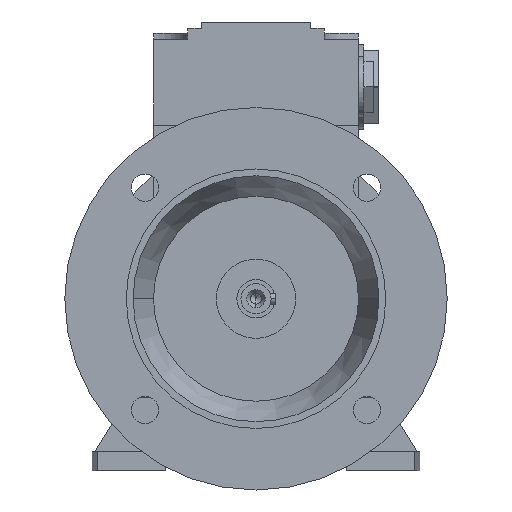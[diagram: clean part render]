
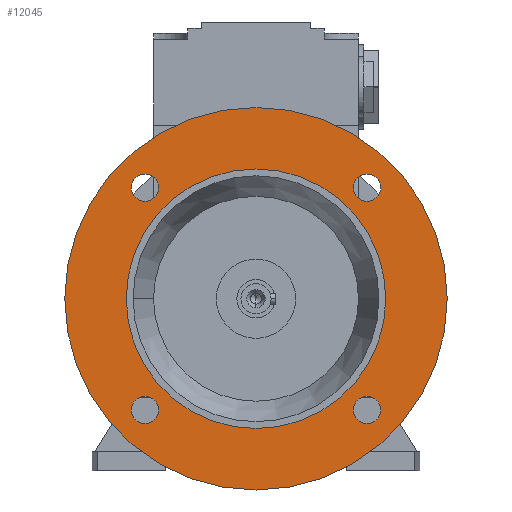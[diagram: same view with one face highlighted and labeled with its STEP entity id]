
A CAD part, left-side view. The second image highlights one B-rep face of the part: STEP entity #12045.
In plain terms, the highlighted planar face has unit normal (-1, 0, 0).
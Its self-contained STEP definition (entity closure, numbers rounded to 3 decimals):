
#3 = AXIS2_PLACEMENT_3D ( 'NONE', #9099, #4665, #8917 ) ;
#90 = AXIS2_PLACEMENT_3D ( 'NONE', #6637, #3662, #18234 ) ;
#241 = EDGE_CURVE ( 'NONE', #12335, #13244, #16145, .T. ) ;
#263 = AXIS2_PLACEMENT_3D ( 'NONE', #18277, #5194, #9460 ) ;
#395 = AXIS2_PLACEMENT_3D ( 'NONE', #10301, #7431, #6039 ) ;
#990 = EDGE_CURVE ( 'NONE', #7320, #1233, #5333, .T. ) ;
#1117 = DIRECTION ( 'NONE',  ( 1., 0., 0. ) ) ;
#1233 = VERTEX_POINT ( 'NONE', #13842 ) ;
#1261 = DIRECTION ( 'NONE',  ( 0., 0.707, 0.707 ) ) ;
#1568 = CIRCLE ( 'NONE', #90, 47.5 ) ;
#2023 = DIRECTION ( 'NONE',  ( 0., 1., 0. ) ) ;
#2176 = CIRCLE ( 'NONE', #15226, 5. ) ;
#2205 = CIRCLE ( 'NONE', #3388, 5. ) ;
#2375 = EDGE_CURVE ( 'NONE', #1233, #7320, #5623, .T. ) ;
#2450 = DIRECTION ( 'NONE',  ( 1., 0., 0. ) ) ;
#2483 = EDGE_CURVE ( 'NONE', #10193, #7054, #5585, .T. ) ;
#2580 = CARTESIAN_POINT ( 'NONE',  ( -29.5, 40.659, 40.659 ) ) ;
#2839 = DIRECTION ( 'NONE',  ( 0., 0.707, -0.707 ) ) ;
#3086 = CIRCLE ( 'NONE', #6641, 5. ) ;
#3388 = AXIS2_PLACEMENT_3D ( 'NONE', #3904, #1117, #15331 ) ;
#3524 = EDGE_LOOP ( 'NONE', ( #4411, #6313 ) ) ;
#3662 = DIRECTION ( 'NONE',  ( 1., 0., 0. ) ) ;
#3728 = FACE_OUTER_BOUND ( 'NONE', #11470, .T. ) ;
#3820 = DIRECTION ( 'NONE',  ( -1., 0., 0. ) ) ;
#3875 = CARTESIAN_POINT ( 'NONE',  ( -29.5, -70., 0. ) ) ;
#3904 = CARTESIAN_POINT ( 'NONE',  ( -29.5, 40.659, -40.659 ) ) ;
#3990 = AXIS2_PLACEMENT_3D ( 'NONE', #12759, #11029, #2839 ) ;
#4411 = ORIENTED_EDGE ( 'NONE', *, *, #12564, .T. ) ;
#4441 = ORIENTED_EDGE ( 'NONE', *, *, #5776, .F. ) ;
#4460 = ORIENTED_EDGE ( 'NONE', *, *, #6148, .T. ) ;
#4665 = DIRECTION ( 'NONE',  ( 1., 0., 0. ) ) ;
#4771 = DIRECTION ( 'NONE',  ( 1., 0., 0. ) ) ;
#5057 = EDGE_CURVE ( 'NONE', #8076, #5631, #3086, .T. ) ;
#5097 = CARTESIAN_POINT ( 'NONE',  ( -29.5, 0., 0. ) ) ;
#5194 = DIRECTION ( 'NONE',  ( 1., 0., 0. ) ) ;
#5256 = CARTESIAN_POINT ( 'NONE',  ( -29.5, 70., 0. ) ) ;
#5286 = DIRECTION ( 'NONE',  ( 1., 0., 0. ) ) ;
#5333 = CIRCLE ( 'NONE', #3, 5. ) ;
#5585 = CIRCLE ( 'NONE', #15113, 70. ) ;
#5623 = CIRCLE ( 'NONE', #7993, 5. ) ;
#5631 = VERTEX_POINT ( 'NONE', #11249 ) ;
#5776 = EDGE_CURVE ( 'NONE', #7054, #10193, #17274, .T. ) ;
#5821 = ORIENTED_EDGE ( 'NONE', *, *, #14897, .T. ) ;
#5940 = CARTESIAN_POINT ( 'NONE',  ( -29.5, 0., 0. ) ) ;
#6039 = DIRECTION ( 'NONE',  ( 0., 1., 0. ) ) ;
#6148 = EDGE_CURVE ( 'NONE', #8932, #12710, #1568, .T. ) ;
#6257 = DIRECTION ( 'NONE',  ( 0., -0.707, 0.707 ) ) ;
#6313 = ORIENTED_EDGE ( 'NONE', *, *, #5057, .T. ) ;
#6418 = FACE_BOUND ( 'NONE', #14311, .T. ) ;
#6511 = PLANE ( 'NONE',  #7750 ) ;
#6522 = ORIENTED_EDGE ( 'NONE', *, *, #6759, .T. ) ;
#6637 = CARTESIAN_POINT ( 'NONE',  ( -29.5, 0., 0. ) ) ;
#6641 = AXIS2_PLACEMENT_3D ( 'NONE', #14795, #11743, #6257 ) ;
#6759 = EDGE_CURVE ( 'NONE', #12710, #8932, #14037, .T. ) ;
#6822 = VERTEX_POINT ( 'NONE', #15038 ) ;
#7054 = VERTEX_POINT ( 'NONE', #3875 ) ;
#7320 = VERTEX_POINT ( 'NONE', #9592 ) ;
#7431 = DIRECTION ( 'NONE',  ( 1., 0., 0. ) ) ;
#7433 = ORIENTED_EDGE ( 'NONE', *, *, #2375, .T. ) ;
#7750 = AXIS2_PLACEMENT_3D ( 'NONE', #16339, #3820, #10510 ) ;
#7768 = ORIENTED_EDGE ( 'NONE', *, *, #15234, .T. ) ;
#7993 = AXIS2_PLACEMENT_3D ( 'NONE', #12374, #2450, #10024 ) ;
#8000 = FACE_BOUND ( 'NONE', #18090, .T. ) ;
#8076 = VERTEX_POINT ( 'NONE', #9774 ) ;
#8286 = CIRCLE ( 'NONE', #263, 5. ) ;
#8917 = DIRECTION ( 'NONE',  ( 0., -0.707, -0.707 ) ) ;
#8932 = VERTEX_POINT ( 'NONE', #18269 ) ;
#9099 = CARTESIAN_POINT ( 'NONE',  ( -29.5, -40.659, -40.659 ) ) ;
#9385 = FACE_BOUND ( 'NONE', #3524, .T. ) ;
#9460 = DIRECTION ( 'NONE',  ( 0., -0.707, 0.707 ) ) ;
#9531 = EDGE_LOOP ( 'NONE', ( #5821, #7768 ) ) ;
#9592 = CARTESIAN_POINT ( 'NONE',  ( -29.5, -37.123, -37.123 ) ) ;
#9774 = CARTESIAN_POINT ( 'NONE',  ( -29.5, -37.123, 37.123 ) ) ;
#10024 = DIRECTION ( 'NONE',  ( 0., -0.707, -0.707 ) ) ;
#10182 = CARTESIAN_POINT ( 'NONE',  ( -29.5, 47.5, 0. ) ) ;
#10193 = VERTEX_POINT ( 'NONE', #5256 ) ;
#10293 = DIRECTION ( 'NONE',  ( 1., 0., 0. ) ) ;
#10301 = CARTESIAN_POINT ( 'NONE',  ( -29.5, 0., 0. ) ) ;
#10423 = ORIENTED_EDGE ( 'NONE', *, *, #2483, .F. ) ;
#10510 = DIRECTION ( 'NONE',  ( 0., 0., 1. ) ) ;
#10736 = EDGE_LOOP ( 'NONE', ( #7433, #16477 ) ) ;
#11029 = DIRECTION ( 'NONE',  ( 1., 0., 0. ) ) ;
#11249 = CARTESIAN_POINT ( 'NONE',  ( -29.5, -44.194, 44.194 ) ) ;
#11470 = EDGE_LOOP ( 'NONE', ( #10423, #4441 ) ) ;
#11694 = CARTESIAN_POINT ( 'NONE',  ( -29.5, 44.194, 44.194 ) ) ;
#11743 = DIRECTION ( 'NONE',  ( 1., 0., 0. ) ) ;
#11972 = DIRECTION ( 'NONE',  ( 0., 1., 0. ) ) ;
#12045 = ADVANCED_FACE ( 'NONE', ( #8000, #9385, #6418, #15150, #13371, #3728 ), #6511, .T. ) ;
#12287 = ORIENTED_EDGE ( 'NONE', *, *, #241, .T. ) ;
#12335 = VERTEX_POINT ( 'NONE', #11694 ) ;
#12374 = CARTESIAN_POINT ( 'NONE',  ( -29.5, -40.659, -40.659 ) ) ;
#12564 = EDGE_CURVE ( 'NONE', #5631, #8076, #8286, .T. ) ;
#12710 = VERTEX_POINT ( 'NONE', #10182 ) ;
#12759 = CARTESIAN_POINT ( 'NONE',  ( -29.5, 40.659, -40.659 ) ) ;
#12972 = ORIENTED_EDGE ( 'NONE', *, *, #14114, .T. ) ;
#13244 = VERTEX_POINT ( 'NONE', #16167 ) ;
#13371 = FACE_BOUND ( 'NONE', #10736, .T. ) ;
#13785 = AXIS2_PLACEMENT_3D ( 'NONE', #17392, #4771, #17813 ) ;
#13842 = CARTESIAN_POINT ( 'NONE',  ( -29.5, -44.194, -44.194 ) ) ;
#13975 = DIRECTION ( 'NONE',  ( 1., 0., 0. ) ) ;
#14037 = CIRCLE ( 'NONE', #395, 47.5 ) ;
#14114 = EDGE_CURVE ( 'NONE', #13244, #12335, #2176, .T. ) ;
#14258 = CARTESIAN_POINT ( 'NONE',  ( -29.5, 37.123, -37.123 ) ) ;
#14311 = EDGE_LOOP ( 'NONE', ( #12287, #12972 ) ) ;
#14795 = CARTESIAN_POINT ( 'NONE',  ( -29.5, -40.659, 40.659 ) ) ;
#14897 = EDGE_CURVE ( 'NONE', #6822, #18064, #2205, .T. ) ;
#15038 = CARTESIAN_POINT ( 'NONE',  ( -29.5, 44.194, -44.194 ) ) ;
#15113 = AXIS2_PLACEMENT_3D ( 'NONE', #5940, #10293, #2023 ) ;
#15150 = FACE_BOUND ( 'NONE', #9531, .T. ) ;
#15226 = AXIS2_PLACEMENT_3D ( 'NONE', #2580, #13975, #1261 ) ;
#15234 = EDGE_CURVE ( 'NONE', #18064, #6822, #17616, .T. ) ;
#15331 = DIRECTION ( 'NONE',  ( 0., 0.707, -0.707 ) ) ;
#16145 = CIRCLE ( 'NONE', #13785, 5. ) ;
#16167 = CARTESIAN_POINT ( 'NONE',  ( -29.5, 37.123, 37.123 ) ) ;
#16339 = CARTESIAN_POINT ( 'NONE',  ( -29.5, 58.75, 0. ) ) ;
#16376 = AXIS2_PLACEMENT_3D ( 'NONE', #5097, #5286, #11972 ) ;
#16477 = ORIENTED_EDGE ( 'NONE', *, *, #990, .T. ) ;
#17274 = CIRCLE ( 'NONE', #16376, 70. ) ;
#17392 = CARTESIAN_POINT ( 'NONE',  ( -29.5, 40.659, 40.659 ) ) ;
#17616 = CIRCLE ( 'NONE', #3990, 5. ) ;
#17813 = DIRECTION ( 'NONE',  ( 0., 0.707, 0.707 ) ) ;
#18064 = VERTEX_POINT ( 'NONE', #14258 ) ;
#18090 = EDGE_LOOP ( 'NONE', ( #6522, #4460 ) ) ;
#18234 = DIRECTION ( 'NONE',  ( 0., 1., 0. ) ) ;
#18269 = CARTESIAN_POINT ( 'NONE',  ( -29.5, -47.5, 0. ) ) ;
#18277 = CARTESIAN_POINT ( 'NONE',  ( -29.5, -40.659, 40.659 ) ) ;
